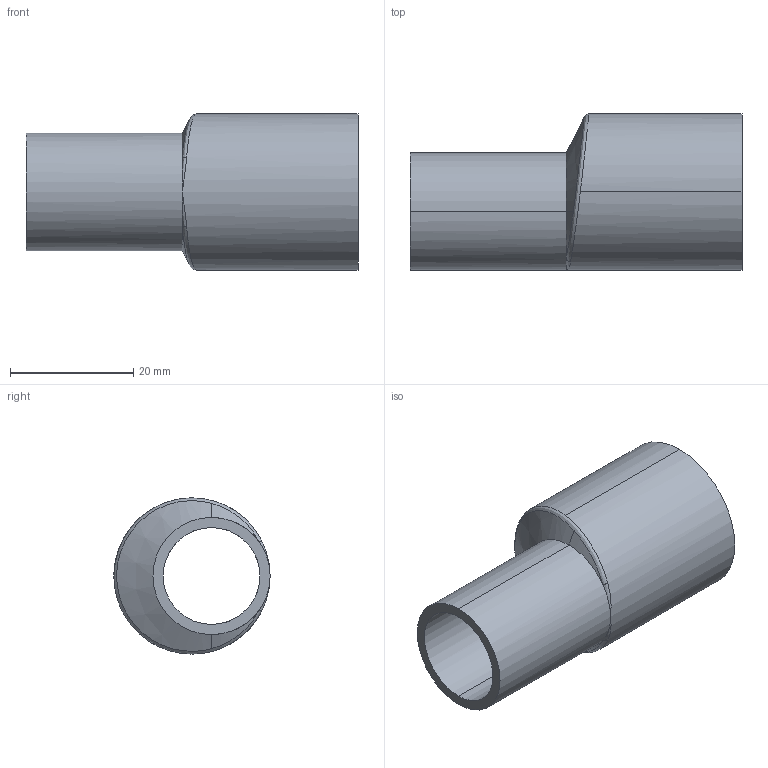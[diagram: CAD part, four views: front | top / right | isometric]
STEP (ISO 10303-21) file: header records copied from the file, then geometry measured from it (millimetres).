
FILE_DESCRIPTION (( 'STEP AP214' ), '1' );
FILE_NAME ('TE32SWW6L1.0x.75-...STEP', '2016-06-01T04:56:15', ( 'eran' ), ( '' ), 'SwSTEP 2.0', 'SolidWorks 2016', '' );
FILE_SCHEMA (( 'AUTOMOTIVE_DESIGN' ));
Length unit declared in the file: millimetre
Products named in the file (1): TE32SWW6L1.0x.75-..
Bounding box: 53.98 x 25.4 x 25.4 mm (x, y, z)
Volume: 8414.3 mm3; surface area: 7108 mm2
Topology: 1 solids, 1 shells, 22 faces, 53 edges, 29 vertices
Faces by surface type: cylinder 8, cone 5, bspline 5, torus 2, plane 2
Entity records: 1297 total; most frequent: CARTESIAN_POINT 805, ORIENTED_EDGE 98, DIRECTION 91, EDGE_CURVE 49, AXIS2_PLACEMENT_3D 40, VERTEX_POINT 29, EDGE_LOOP 24, FACE_OUTER_BOUND 22
